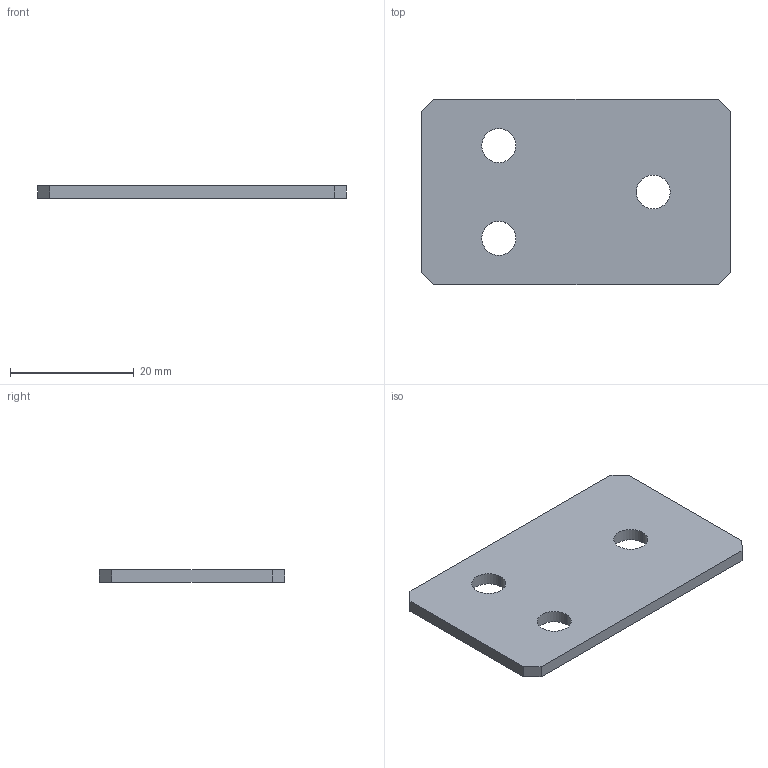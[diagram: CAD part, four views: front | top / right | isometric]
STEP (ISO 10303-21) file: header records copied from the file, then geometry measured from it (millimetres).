
FILE_DESCRIPTION (( 'STEP AP203' ), '1' );
FILE_NAME ('T090027.STEP', '2018-02-27T09:45:44', ( '' ), ( '' ), 'SwSTEP 2.0', 'SolidWorks 2016', '' );
FILE_SCHEMA (( 'CONFIG_CONTROL_DESIGN' ));
Length unit declared in the file: millimetre
Products named in the file (1): T090027
Bounding box: 50 x 30 x 2 mm (x, y, z)
Volume: 2841.5 mm3; surface area: 3255.8 mm2
Topology: 1 solids, 1 shells, 16 faces, 42 edges, 28 vertices
Faces by surface type: plane 10, cylinder 6
Entity records: 587 total; most frequent: DIRECTION 88, CARTESIAN_POINT 87, ORIENTED_EDGE 84, EDGE_CURVE 42, VECTOR 30, LINE 30, AXIS2_PLACEMENT_3D 29, VERTEX_POINT 28
